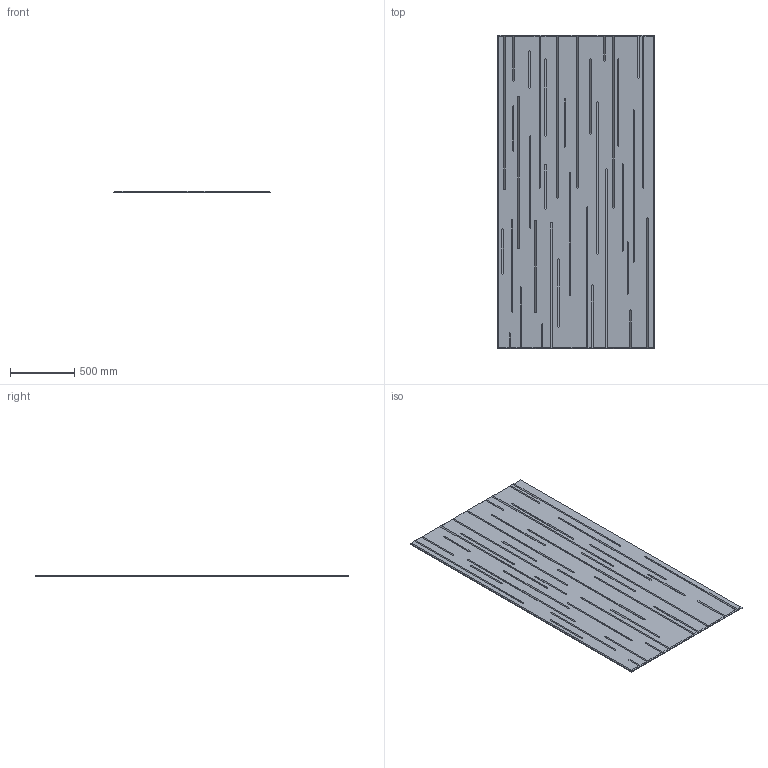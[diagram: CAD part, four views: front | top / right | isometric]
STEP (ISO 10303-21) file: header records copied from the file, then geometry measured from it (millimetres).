
FILE_DESCRIPTION(/* description */ (''),/* implementation_level */ '2;1');
FILE_NAME(/* name */ 'Y:\Design and Engineering\MaterialLogiq\CAD ASSETS\MASTER\PET ENGRAVED\WEB ASSETS\Organic 2.stp',/* time_stamp */ '2024-09-04T15:41:21-05:00',/* author */ ('Grant Baker'),/* organization */ (''),/* preprocessor_version */ 'ST-DEVELOPER v19',/* originating_system */ 'Autodesk Inventor 2023',/* authorisation */ '');
FILE_SCHEMA (('AUTOMOTIVE_DESIGN { 1 0 10303 214 3 1 1 }'));
Length unit declared in the file: inch
Products named in the file (1): Organic 2
Bounding box: 1219.2 x 2438.4 x 12.7 mm (x, y, z)
Volume: 36561050.8 mm3; surface area: 6148443.4 mm2
Topology: 1 solids, 1 shells, 208 faces, 472 edges, 284 vertices
Faces by surface type: plane 208
Entity records: 5625 total; most frequent: CARTESIAN_POINT 965, ORIENTED_EDGE 944, DIRECTION 890, LINE 472, VECTOR 472, EDGE_CURVE 472, VERTEX_POINT 284, EDGE_LOOP 226
